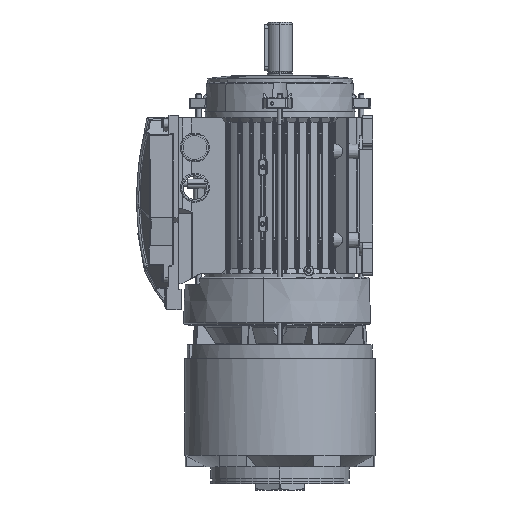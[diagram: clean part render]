
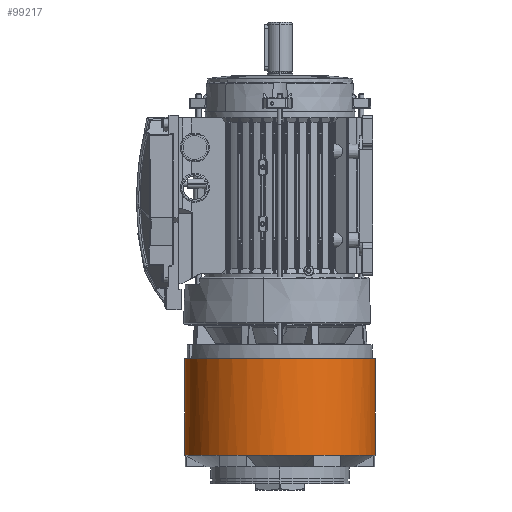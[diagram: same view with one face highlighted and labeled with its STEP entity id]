
A CAD part, left-side view. The second image highlights one B-rep face of the part: STEP entity #99217.
In plain terms, the highlighted cylindrical face has radius 92.5 mm (diameter 185 mm), a partial arc.
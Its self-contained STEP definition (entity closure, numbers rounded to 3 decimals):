
#1176 = ORIENTED_EDGE ( 'NONE', *, *, #102697, .F. ) ;
#1953 = CARTESIAN_POINT ( 'NONE',  ( 93.887, 0., 0. ) ) ;
#4945 = VERTEX_POINT ( 'NONE', #152705 ) ;
#9954 = CARTESIAN_POINT ( 'NONE',  ( 93.887, -32.279, -86.685 ) ) ;
#10800 = ORIENTED_EDGE ( 'NONE', *, *, #173911, .T. ) ;
#19751 = VERTEX_POINT ( 'NONE', #169952 ) ;
#21641 = VECTOR ( 'NONE', #187582, 1000. ) ;
#25776 = EDGE_CURVE ( 'NONE', #196302, #97637, #61311, .T. ) ;
#26967 = DIRECTION ( 'NONE',  ( 1., 0., 0. ) ) ;
#27862 = ORIENTED_EDGE ( 'NONE', *, *, #176550, .T. ) ;
#29633 = CARTESIAN_POINT ( 'NONE',  ( 0., 0., 0. ) ) ;
#31424 = AXIS2_PLACEMENT_3D ( 'NONE', #165145, #87407, #132019 ) ;
#35229 = EDGE_CURVE ( 'NONE', #126736, #138941, #187436, .T. ) ;
#36468 = AXIS2_PLACEMENT_3D ( 'NONE', #168867, #26967, #90102 ) ;
#40628 = VERTEX_POINT ( 'NONE', #66865 ) ;
#42967 = CIRCLE ( 'NONE', #36468, 92.5 ) ;
#46627 = CARTESIAN_POINT ( 'NONE',  ( 93.887, 58.932, -71.297 ) ) ;
#48044 = ORIENTED_EDGE ( 'NONE', *, *, #141016, .T. ) ;
#49368 = ORIENTED_EDGE ( 'NONE', *, *, #25776, .F. ) ;
#50844 = VECTOR ( 'NONE', #120260, 1000. ) ;
#51451 = CARTESIAN_POINT ( 'NONE',  ( 93.887, 0., 0. ) ) ;
#55558 = CARTESIAN_POINT ( 'NONE',  ( 93.887, 32.279, -86.685 ) ) ;
#55991 = ORIENTED_EDGE ( 'NONE', *, *, #99461, .F. ) ;
#61311 = CIRCLE ( 'NONE', #114243, 92.5 ) ;
#62861 = DIRECTION ( 'NONE',  ( 1., 0., 0. ) ) ;
#62866 = DIRECTION ( 'NONE',  ( -1., 0., 0. ) ) ;
#66865 = CARTESIAN_POINT ( 'NONE',  ( 93.887, -58.932, -71.297 ) ) ;
#68346 = ORIENTED_EDGE ( 'NONE', *, *, #146262, .F. ) ;
#70556 = LINE ( 'NONE', #135792, #50844 ) ;
#73400 = EDGE_CURVE ( 'NONE', #97473, #19751, #70556, .T. ) ;
#76178 = DIRECTION ( 'NONE',  ( 0., 1., 0. ) ) ;
#82297 = DIRECTION ( 'NONE',  ( 0., 1., 0. ) ) ;
#85017 = CIRCLE ( 'NONE', #161217, 92.5 ) ;
#87407 = DIRECTION ( 'NONE',  ( 1., 0., 0. ) ) ;
#90102 = DIRECTION ( 'NONE',  ( 0., 1., 0. ) ) ;
#92419 = DIRECTION ( 'NONE',  ( 1., 0., 0. ) ) ;
#95397 = CARTESIAN_POINT ( 'NONE',  ( 0., -92.5, 0. ) ) ;
#97351 = CIRCLE ( 'NONE', #170062, 92.5 ) ;
#97473 = VERTEX_POINT ( 'NONE', #116394 ) ;
#97637 = VERTEX_POINT ( 'NONE', #46627 ) ;
#97943 = VERTEX_POINT ( 'NONE', #112860 ) ;
#99217 = ADVANCED_FACE ( 'NONE', ( #105287 ), #108362, .T. ) ;
#99461 = EDGE_CURVE ( 'NONE', #4945, #19751, #183545, .T. ) ;
#102697 = EDGE_CURVE ( 'NONE', #40628, #202254, #97351, .T. ) ;
#103459 = AXIS2_PLACEMENT_3D ( 'NONE', #1953, #112821, #193535 ) ;
#105287 = FACE_OUTER_BOUND ( 'NONE', #151171, .T. ) ;
#108362 = CYLINDRICAL_SURFACE ( 'NONE', #196828, 92.5 ) ;
#109016 = CARTESIAN_POINT ( 'NONE',  ( 93.887, 0., 0. ) ) ;
#110561 = DIRECTION ( 'NONE',  ( 0., 0., 1. ) ) ;
#112821 = DIRECTION ( 'NONE',  ( -1., 0., 0. ) ) ;
#112860 = CARTESIAN_POINT ( 'NONE',  ( 0., -92.5, 0. ) ) ;
#114243 = AXIS2_PLACEMENT_3D ( 'NONE', #201180, #92419, #188686 ) ;
#116394 = CARTESIAN_POINT ( 'NONE',  ( 0., 92.5, 0. ) ) ;
#120260 = DIRECTION ( 'NONE',  ( 1., 0., 0. ) ) ;
#121377 = AXIS2_PLACEMENT_3D ( 'NONE', #51451, #62861, #126049 ) ;
#124503 = DIRECTION ( 'NONE',  ( 0., 0., 1. ) ) ;
#126049 = DIRECTION ( 'NONE',  ( 0., 1., 0. ) ) ;
#126424 = LINE ( 'NONE', #95397, #21641 ) ;
#126736 = VERTEX_POINT ( 'NONE', #176857 ) ;
#132019 = DIRECTION ( 'NONE',  ( 0., 1., 0. ) ) ;
#134240 = CARTESIAN_POINT ( 'NONE',  ( 93.887, 0., 0. ) ) ;
#135792 = CARTESIAN_POINT ( 'NONE',  ( 0., 92.5, 0. ) ) ;
#137294 = DIRECTION ( 'NONE',  ( 1., 0., 0. ) ) ;
#138941 = VERTEX_POINT ( 'NONE', #148157 ) ;
#139806 = CIRCLE ( 'NONE', #103459, 92.5 ) ;
#141016 = EDGE_CURVE ( 'NONE', #4945, #97637, #155674, .T. ) ;
#146262 = EDGE_CURVE ( 'NONE', #97943, #126736, #126424, .T. ) ;
#148157 = CARTESIAN_POINT ( 'NONE',  ( 93.887, -91.211, -15.388 ) ) ;
#149240 = ORIENTED_EDGE ( 'NONE', *, *, #150535, .T. ) ;
#150535 = EDGE_CURVE ( 'NONE', #40628, #138941, #85017, .T. ) ;
#151171 = EDGE_LOOP ( 'NONE', ( #68346, #10800, #180793, #55991, #48044, #49368, #27862, #1176, #149240, #153002 ) ) ;
#152705 = CARTESIAN_POINT ( 'NONE',  ( 93.887, 91.211, -15.388 ) ) ;
#153002 = ORIENTED_EDGE ( 'NONE', *, *, #35229, .F. ) ;
#155674 = CIRCLE ( 'NONE', #182148, 92.5 ) ;
#157168 = CARTESIAN_POINT ( 'NONE',  ( 93.887, 0., 0. ) ) ;
#161217 = AXIS2_PLACEMENT_3D ( 'NONE', #157168, #62866, #110561 ) ;
#165145 = CARTESIAN_POINT ( 'NONE',  ( 93.887, 0., 0. ) ) ;
#168867 = CARTESIAN_POINT ( 'NONE',  ( 0., 0., 0. ) ) ;
#169952 = CARTESIAN_POINT ( 'NONE',  ( 93.887, 92.5, 0. ) ) ;
#170062 = AXIS2_PLACEMENT_3D ( 'NONE', #134240, #137294, #76178 ) ;
#173911 = EDGE_CURVE ( 'NONE', #97943, #97473, #42967, .T. ) ;
#176550 = EDGE_CURVE ( 'NONE', #196302, #202254, #139806, .T. ) ;
#176857 = CARTESIAN_POINT ( 'NONE',  ( 93.887, -92.5, 0. ) ) ;
#180793 = ORIENTED_EDGE ( 'NONE', *, *, #73400, .T. ) ;
#182148 = AXIS2_PLACEMENT_3D ( 'NONE', #109016, #190721, #124503 ) ;
#183545 = CIRCLE ( 'NONE', #31424, 92.5 ) ;
#183995 = DIRECTION ( 'NONE',  ( 1., 0., 0. ) ) ;
#187436 = CIRCLE ( 'NONE', #121377, 92.5 ) ;
#187582 = DIRECTION ( 'NONE',  ( 1., 0., 0. ) ) ;
#188686 = DIRECTION ( 'NONE',  ( 0., 1., 0. ) ) ;
#190721 = DIRECTION ( 'NONE',  ( -1., 0., 0. ) ) ;
#193535 = DIRECTION ( 'NONE',  ( 0., 0., 1. ) ) ;
#196302 = VERTEX_POINT ( 'NONE', #55558 ) ;
#196828 = AXIS2_PLACEMENT_3D ( 'NONE', #29633, #183995, #82297 ) ;
#201180 = CARTESIAN_POINT ( 'NONE',  ( 93.887, 0., 0. ) ) ;
#202254 = VERTEX_POINT ( 'NONE', #9954 ) ;
